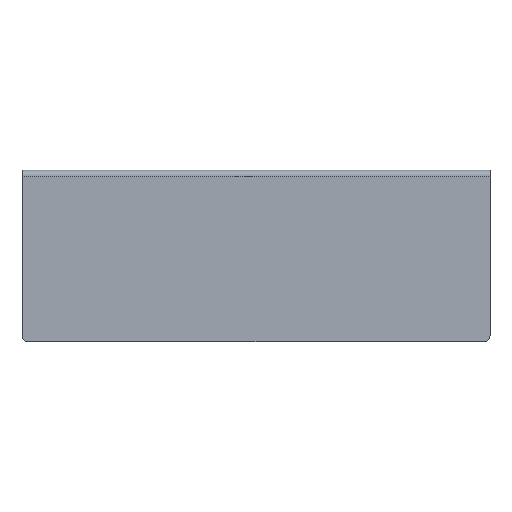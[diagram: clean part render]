
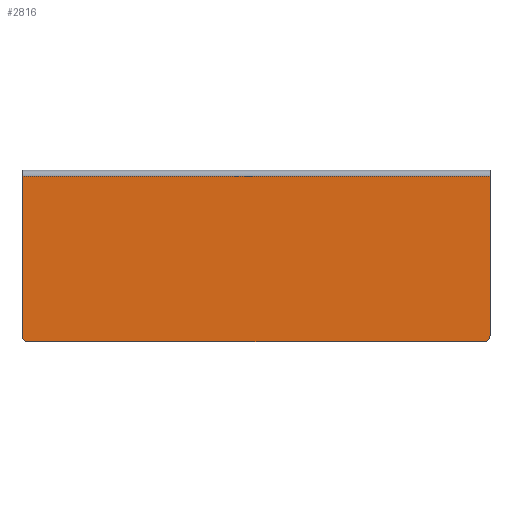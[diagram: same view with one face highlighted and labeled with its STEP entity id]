
A CAD part, front view. The second image highlights one B-rep face of the part: STEP entity #2816.
In plain terms, the highlighted planar face has unit normal (0, -1, 0).
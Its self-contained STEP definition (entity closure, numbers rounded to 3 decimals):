
#1651 = CYLINDRICAL_SURFACE('',#1652,2.);
#1652 = AXIS2_PLACEMENT_3D('',#1653,#1654,#1655);
#1653 = CARTESIAN_POINT('',(-3.,116.5,56.));
#1654 = DIRECTION('',(1.,0.,0.));
#1655 = DIRECTION('',(0.,0.,1.));
#2027 = VERTEX_POINT('',#2028);
#2028 = CARTESIAN_POINT('',(158.,114.5,56.));
#2066 = PLANE('',#2067);
#2067 = AXIS2_PLACEMENT_3D('',#2068,#2069,#2070);
#2068 = CARTESIAN_POINT('',(158.,115.5,-1.));
#2069 = DIRECTION('',(-1.,0.,0.));
#2070 = DIRECTION('',(0.,0.,1.));
#2543 = VERTEX_POINT('',#2544);
#2544 = CARTESIAN_POINT('',(-3.,114.5,56.));
#2566 = EDGE_CURVE('',#2543,#2027,#2567,.T.);
#2567 = SURFACE_CURVE('',#2568,(#2572,#2579),.PCURVE_S1.);
#2568 = LINE('',#2569,#2570);
#2569 = CARTESIAN_POINT('',(-3.,114.5,56.));
#2570 = VECTOR('',#2571,1.);
#2571 = DIRECTION('',(1.,0.,0.));
#2572 = PCURVE('',#1651,#2573);
#2573 = DEFINITIONAL_REPRESENTATION('',(#2574),#2578);
#2574 = LINE('',#2575,#2576);
#2575 = CARTESIAN_POINT('',(1.571,0.));
#2576 = VECTOR('',#2577,1.);
#2577 = DIRECTION('',(0.,1.));
#2578 = ( GEOMETRIC_REPRESENTATION_CONTEXT(2) 
PARAMETRIC_REPRESENTATION_CONTEXT() REPRESENTATION_CONTEXT('2D SPACE',''
  ) );
#2579 = PCURVE('',#2580,#2585);
#2580 = PLANE('',#2581);
#2581 = AXIS2_PLACEMENT_3D('',#2582,#2583,#2584);
#2582 = CARTESIAN_POINT('',(77.5,114.5,27.5));
#2583 = DIRECTION('',(0.,-1.,0.));
#2584 = DIRECTION('',(1.,0.,0.));
#2585 = DEFINITIONAL_REPRESENTATION('',(#2586),#2590);
#2586 = LINE('',#2587,#2588);
#2587 = CARTESIAN_POINT('',(-80.5,28.5));
#2588 = VECTOR('',#2589,1.);
#2589 = DIRECTION('',(1.,0.));
#2590 = ( GEOMETRIC_REPRESENTATION_CONTEXT(2) 
PARAMETRIC_REPRESENTATION_CONTEXT() REPRESENTATION_CONTEXT('2D SPACE',''
  ) );
#2621 = VERTEX_POINT('',#2622);
#2622 = CARTESIAN_POINT('',(158.,114.5,1.));
#2636 = CYLINDRICAL_SURFACE('',#2637,2.);
#2637 = AXIS2_PLACEMENT_3D('',#2638,#2639,#2640);
#2638 = CARTESIAN_POINT('',(156.,115.5,1.));
#2639 = DIRECTION('',(0.,-1.,0.));
#2640 = DIRECTION('',(1.,0.,0.));
#2648 = EDGE_CURVE('',#2621,#2027,#2649,.T.);
#2649 = SURFACE_CURVE('',#2650,(#2654,#2661),.PCURVE_S1.);
#2650 = LINE('',#2651,#2652);
#2651 = CARTESIAN_POINT('',(158.,114.5,-1.));
#2652 = VECTOR('',#2653,1.);
#2653 = DIRECTION('',(0.,0.,1.));
#2654 = PCURVE('',#2066,#2655);
#2655 = DEFINITIONAL_REPRESENTATION('',(#2656),#2660);
#2656 = LINE('',#2657,#2658);
#2657 = CARTESIAN_POINT('',(0.,-1.));
#2658 = VECTOR('',#2659,1.);
#2659 = DIRECTION('',(1.,0.));
#2660 = ( GEOMETRIC_REPRESENTATION_CONTEXT(2) 
PARAMETRIC_REPRESENTATION_CONTEXT() REPRESENTATION_CONTEXT('2D SPACE',''
  ) );
#2661 = PCURVE('',#2580,#2662);
#2662 = DEFINITIONAL_REPRESENTATION('',(#2663),#2667);
#2663 = LINE('',#2664,#2665);
#2664 = CARTESIAN_POINT('',(80.5,-28.5));
#2665 = VECTOR('',#2666,1.);
#2666 = DIRECTION('',(0.,1.));
#2667 = ( GEOMETRIC_REPRESENTATION_CONTEXT(2) 
PARAMETRIC_REPRESENTATION_CONTEXT() REPRESENTATION_CONTEXT('2D SPACE',''
  ) );
#2688 = PLANE('',#2689);
#2689 = AXIS2_PLACEMENT_3D('',#2690,#2691,#2692);
#2690 = CARTESIAN_POINT('',(-3.,115.5,56.));
#2691 = DIRECTION('',(1.,0.,0.));
#2692 = DIRECTION('',(0.,0.,-1.));
#2749 = CYLINDRICAL_SURFACE('',#2750,2.);
#2750 = AXIS2_PLACEMENT_3D('',#2751,#2752,#2753);
#2751 = CARTESIAN_POINT('',(-1.,115.5,1.));
#2752 = DIRECTION('',(0.,-1.,0.));
#2753 = DIRECTION('',(0.,0.,-1.));
#2777 = PLANE('',#2778);
#2778 = AXIS2_PLACEMENT_3D('',#2779,#2780,#2781);
#2779 = CARTESIAN_POINT('',(-3.,115.5,-1.));
#2780 = DIRECTION('',(0.,0.,1.));
#2781 = DIRECTION('',(1.,0.,0.));
#2816 = ADVANCED_FACE('',(#2817),#2580,.T.);
#2817 = FACE_BOUND('',#2818,.T.);
#2818 = EDGE_LOOP('',(#2819,#2842,#2870,#2893,#2919,#2920));
#2819 = ORIENTED_EDGE('',*,*,#2820,.T.);
#2820 = EDGE_CURVE('',#2543,#2821,#2823,.T.);
#2821 = VERTEX_POINT('',#2822);
#2822 = CARTESIAN_POINT('',(-3.,114.5,1.));
#2823 = SURFACE_CURVE('',#2824,(#2828,#2835),.PCURVE_S1.);
#2824 = LINE('',#2825,#2826);
#2825 = CARTESIAN_POINT('',(-3.,114.5,56.));
#2826 = VECTOR('',#2827,1.);
#2827 = DIRECTION('',(0.,0.,-1.));
#2828 = PCURVE('',#2580,#2829);
#2829 = DEFINITIONAL_REPRESENTATION('',(#2830),#2834);
#2830 = LINE('',#2831,#2832);
#2831 = CARTESIAN_POINT('',(-80.5,28.5));
#2832 = VECTOR('',#2833,1.);
#2833 = DIRECTION('',(0.,-1.));
#2834 = ( GEOMETRIC_REPRESENTATION_CONTEXT(2) 
PARAMETRIC_REPRESENTATION_CONTEXT() REPRESENTATION_CONTEXT('2D SPACE',''
  ) );
#2835 = PCURVE('',#2688,#2836);
#2836 = DEFINITIONAL_REPRESENTATION('',(#2837),#2841);
#2837 = LINE('',#2838,#2839);
#2838 = CARTESIAN_POINT('',(0.,-1.));
#2839 = VECTOR('',#2840,1.);
#2840 = DIRECTION('',(1.,0.));
#2841 = ( GEOMETRIC_REPRESENTATION_CONTEXT(2) 
PARAMETRIC_REPRESENTATION_CONTEXT() REPRESENTATION_CONTEXT('2D SPACE',''
  ) );
#2842 = ORIENTED_EDGE('',*,*,#2843,.F.);
#2843 = EDGE_CURVE('',#2844,#2821,#2846,.T.);
#2844 = VERTEX_POINT('',#2845);
#2845 = CARTESIAN_POINT('',(-1.,114.5,-1.));
#2846 = SURFACE_CURVE('',#2847,(#2852,#2863),.PCURVE_S1.);
#2847 = CIRCLE('',#2848,2.);
#2848 = AXIS2_PLACEMENT_3D('',#2849,#2850,#2851);
#2849 = CARTESIAN_POINT('',(-1.,114.5,1.));
#2850 = DIRECTION('',(0.,1.,0.));
#2851 = DIRECTION('',(0.,0.,-1.));
#2852 = PCURVE('',#2580,#2853);
#2853 = DEFINITIONAL_REPRESENTATION('',(#2854),#2862);
#2854 = ( BOUNDED_CURVE() B_SPLINE_CURVE(2,(#2855,#2856,#2857,#2858,
#2859,#2860,#2861),.UNSPECIFIED.,.T.,.F.) B_SPLINE_CURVE_WITH_KNOTS((1,2
    ,2,2,2,1),(-2.094,0.,2.094,4.189,
6.283,8.378),.UNSPECIFIED.) CURVE() 
GEOMETRIC_REPRESENTATION_ITEM() RATIONAL_B_SPLINE_CURVE((1.,0.5,1.,0.5,
1.,0.5,1.)) REPRESENTATION_ITEM('') );
#2855 = CARTESIAN_POINT('',(-78.5,-28.5));
#2856 = CARTESIAN_POINT('',(-81.964,-28.5));
#2857 = CARTESIAN_POINT('',(-80.232,-25.5));
#2858 = CARTESIAN_POINT('',(-78.5,-22.5));
#2859 = CARTESIAN_POINT('',(-76.768,-25.5));
#2860 = CARTESIAN_POINT('',(-75.036,-28.5));
#2861 = CARTESIAN_POINT('',(-78.5,-28.5));
#2862 = ( GEOMETRIC_REPRESENTATION_CONTEXT(2) 
PARAMETRIC_REPRESENTATION_CONTEXT() REPRESENTATION_CONTEXT('2D SPACE',''
  ) );
#2863 = PCURVE('',#2749,#2864);
#2864 = DEFINITIONAL_REPRESENTATION('',(#2865),#2869);
#2865 = LINE('',#2866,#2867);
#2866 = CARTESIAN_POINT('',(-0.,1.));
#2867 = VECTOR('',#2868,1.);
#2868 = DIRECTION('',(-1.,0.));
#2869 = ( GEOMETRIC_REPRESENTATION_CONTEXT(2) 
PARAMETRIC_REPRESENTATION_CONTEXT() REPRESENTATION_CONTEXT('2D SPACE',''
  ) );
#2870 = ORIENTED_EDGE('',*,*,#2871,.T.);
#2871 = EDGE_CURVE('',#2844,#2872,#2874,.T.);
#2872 = VERTEX_POINT('',#2873);
#2873 = CARTESIAN_POINT('',(156.,114.5,-1.));
#2874 = SURFACE_CURVE('',#2875,(#2879,#2886),.PCURVE_S1.);
#2875 = LINE('',#2876,#2877);
#2876 = CARTESIAN_POINT('',(-3.,114.5,-1.));
#2877 = VECTOR('',#2878,1.);
#2878 = DIRECTION('',(1.,0.,0.));
#2879 = PCURVE('',#2580,#2880);
#2880 = DEFINITIONAL_REPRESENTATION('',(#2881),#2885);
#2881 = LINE('',#2882,#2883);
#2882 = CARTESIAN_POINT('',(-80.5,-28.5));
#2883 = VECTOR('',#2884,1.);
#2884 = DIRECTION('',(1.,0.));
#2885 = ( GEOMETRIC_REPRESENTATION_CONTEXT(2) 
PARAMETRIC_REPRESENTATION_CONTEXT() REPRESENTATION_CONTEXT('2D SPACE',''
  ) );
#2886 = PCURVE('',#2777,#2887);
#2887 = DEFINITIONAL_REPRESENTATION('',(#2888),#2892);
#2888 = LINE('',#2889,#2890);
#2889 = CARTESIAN_POINT('',(0.,-1.));
#2890 = VECTOR('',#2891,1.);
#2891 = DIRECTION('',(1.,0.));
#2892 = ( GEOMETRIC_REPRESENTATION_CONTEXT(2) 
PARAMETRIC_REPRESENTATION_CONTEXT() REPRESENTATION_CONTEXT('2D SPACE',''
  ) );
#2893 = ORIENTED_EDGE('',*,*,#2894,.F.);
#2894 = EDGE_CURVE('',#2621,#2872,#2895,.T.);
#2895 = SURFACE_CURVE('',#2896,(#2901,#2912),.PCURVE_S1.);
#2896 = CIRCLE('',#2897,2.);
#2897 = AXIS2_PLACEMENT_3D('',#2898,#2899,#2900);
#2898 = CARTESIAN_POINT('',(156.,114.5,1.));
#2899 = DIRECTION('',(0.,1.,0.));
#2900 = DIRECTION('',(0.,0.,-1.));
#2901 = PCURVE('',#2580,#2902);
#2902 = DEFINITIONAL_REPRESENTATION('',(#2903),#2911);
#2903 = ( BOUNDED_CURVE() B_SPLINE_CURVE(2,(#2904,#2905,#2906,#2907,
#2908,#2909,#2910),.UNSPECIFIED.,.T.,.F.) B_SPLINE_CURVE_WITH_KNOTS((1,2
    ,2,2,2,1),(-2.094,0.,2.094,4.189,
6.283,8.378),.UNSPECIFIED.) CURVE() 
GEOMETRIC_REPRESENTATION_ITEM() RATIONAL_B_SPLINE_CURVE((1.,0.5,1.,0.5,
1.,0.5,1.)) REPRESENTATION_ITEM('') );
#2904 = CARTESIAN_POINT('',(78.5,-28.5));
#2905 = CARTESIAN_POINT('',(75.036,-28.5));
#2906 = CARTESIAN_POINT('',(76.768,-25.5));
#2907 = CARTESIAN_POINT('',(78.5,-22.5));
#2908 = CARTESIAN_POINT('',(80.232,-25.5));
#2909 = CARTESIAN_POINT('',(81.964,-28.5));
#2910 = CARTESIAN_POINT('',(78.5,-28.5));
#2911 = ( GEOMETRIC_REPRESENTATION_CONTEXT(2) 
PARAMETRIC_REPRESENTATION_CONTEXT() REPRESENTATION_CONTEXT('2D SPACE',''
  ) );
#2912 = PCURVE('',#2636,#2913);
#2913 = DEFINITIONAL_REPRESENTATION('',(#2914),#2918);
#2914 = LINE('',#2915,#2916);
#2915 = CARTESIAN_POINT('',(4.712,1.));
#2916 = VECTOR('',#2917,1.);
#2917 = DIRECTION('',(-1.,0.));
#2918 = ( GEOMETRIC_REPRESENTATION_CONTEXT(2) 
PARAMETRIC_REPRESENTATION_CONTEXT() REPRESENTATION_CONTEXT('2D SPACE',''
  ) );
#2919 = ORIENTED_EDGE('',*,*,#2648,.T.);
#2920 = ORIENTED_EDGE('',*,*,#2566,.F.);
